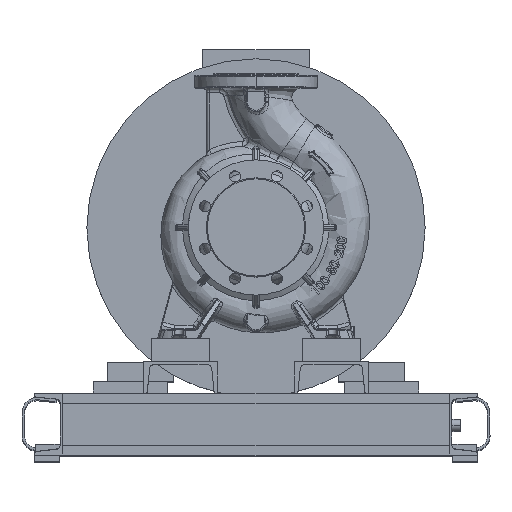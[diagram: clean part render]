
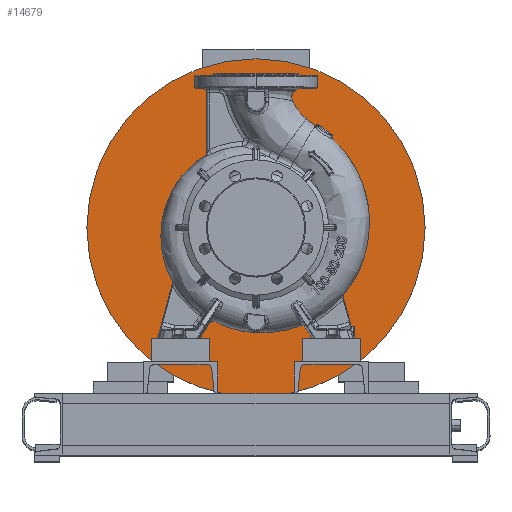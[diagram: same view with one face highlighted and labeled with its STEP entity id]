
A CAD part, top view. The second image highlights one B-rep face of the part: STEP entity #14679.
In plain terms, the highlighted planar face has unit normal (0, 0, 1).
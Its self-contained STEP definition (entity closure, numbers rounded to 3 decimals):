
#1541 = EDGE_LOOP ( 'NONE', ( #73146, #88384 ) ) ;
#2228 = DIRECTION ( 'NONE',  ( 1., 0., 0. ) ) ;
#2655 = CARTESIAN_POINT ( 'NONE',  ( 275., 0., -274.8 ) ) ;
#4824 = CARTESIAN_POINT ( 'NONE',  ( 0., 0., -274.8 ) ) ;
#5075 = EDGE_CURVE ( 'NONE', #37182, #102792, #47536, .T. ) ;
#5691 = AXIS2_PLACEMENT_3D ( 'NONE', #82931, #59074, #91336 ) ;
#6493 = VERTEX_POINT ( 'NONE', #2655 ) ;
#6522 = CIRCLE ( 'NONE', #45387, 275. ) ;
#11124 = DIRECTION ( 'NONE',  ( -1., 0., 0. ) ) ;
#12219 = EDGE_CURVE ( 'NONE', #6493, #31326, #6522, .T. ) ;
#14679 = ADVANCED_FACE ( 'NONE', ( #94500, #35403 ), #82977, .F. ) ;
#27392 = DIRECTION ( 'NONE',  ( 0., 0., 1. ) ) ;
#31326 = VERTEX_POINT ( 'NONE', #87931 ) ;
#33526 = ORIENTED_EDGE ( 'NONE', *, *, #36924, .F. ) ;
#33800 = AXIS2_PLACEMENT_3D ( 'NONE', #103668, #55594, #80876 ) ;
#34378 = ORIENTED_EDGE ( 'NONE', *, *, #5075, .F. ) ;
#35403 = FACE_OUTER_BOUND ( 'NONE', #1541, .T. ) ;
#36340 = EDGE_LOOP ( 'NONE', ( #33526, #34378 ) ) ;
#36924 = EDGE_CURVE ( 'NONE', #102792, #37182, #80465, .T. ) ;
#37182 = VERTEX_POINT ( 'NONE', #48672 ) ;
#45387 = AXIS2_PLACEMENT_3D ( 'NONE', #4824, #27392, #83725 ) ;
#47536 = CIRCLE ( 'NONE', #33800, 125. ) ;
#48672 = CARTESIAN_POINT ( 'NONE',  ( -125., 0., -274.8 ) ) ;
#50502 = CARTESIAN_POINT ( 'NONE',  ( 0., 0., -274.8 ) ) ;
#55594 = DIRECTION ( 'NONE',  ( 0., 0., 1. ) ) ;
#57942 = DIRECTION ( 'NONE',  ( 0., 0., 1. ) ) ;
#59074 = DIRECTION ( 'NONE',  ( 0., 0., 1. ) ) ;
#64470 = CARTESIAN_POINT ( 'NONE',  ( 125., 0., -274.8 ) ) ;
#66482 = DIRECTION ( 'NONE',  ( 0., 0., -1. ) ) ;
#67854 = EDGE_CURVE ( 'NONE', #31326, #6493, #86737, .T. ) ;
#73146 = ORIENTED_EDGE ( 'NONE', *, *, #12219, .T. ) ;
#80465 = CIRCLE ( 'NONE', #99879, 125. ) ;
#80876 = DIRECTION ( 'NONE',  ( 1., 0., 0. ) ) ;
#82931 = CARTESIAN_POINT ( 'NONE',  ( 0., 0., -274.8 ) ) ;
#82977 = PLANE ( 'NONE',  #90662 ) ;
#83316 = CARTESIAN_POINT ( 'NONE',  ( 0., 125., -274.8 ) ) ;
#83725 = DIRECTION ( 'NONE',  ( 1., 0., 0. ) ) ;
#86737 = CIRCLE ( 'NONE', #5691, 275. ) ;
#87931 = CARTESIAN_POINT ( 'NONE',  ( -275., 0., -274.8 ) ) ;
#88384 = ORIENTED_EDGE ( 'NONE', *, *, #67854, .T. ) ;
#90662 = AXIS2_PLACEMENT_3D ( 'NONE', #83316, #66482, #11124 ) ;
#91336 = DIRECTION ( 'NONE',  ( 1., 0., 0. ) ) ;
#94500 = FACE_BOUND ( 'NONE', #36340, .T. ) ;
#99879 = AXIS2_PLACEMENT_3D ( 'NONE', #50502, #57942, #2228 ) ;
#102792 = VERTEX_POINT ( 'NONE', #64470 ) ;
#103668 = CARTESIAN_POINT ( 'NONE',  ( 0., 0., -274.8 ) ) ;
